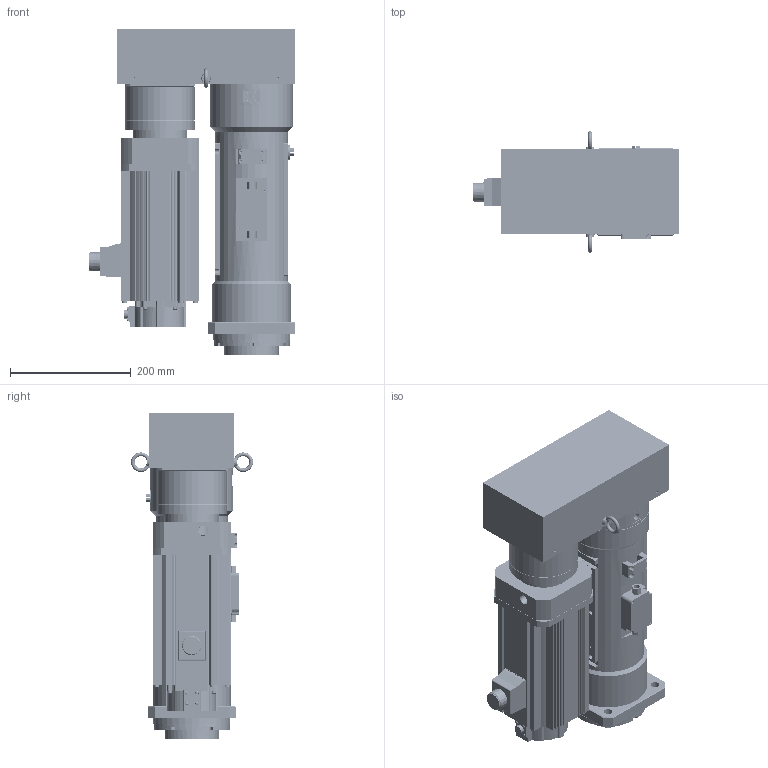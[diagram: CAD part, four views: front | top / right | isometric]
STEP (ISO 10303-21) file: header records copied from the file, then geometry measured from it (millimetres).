
FILE_DESCRIPTION( ('This file contains a STEP AP42 implementation' ,'as created by ZW3D STEP Interface translator.') ,'2;1' );
FILE_NAME( 'OACIS-DC-P060-P070-140-A6V200_V20.51.stp' ,'26 428.145142', (''), ('ZWCAD Software Co.'), 'Version 1.0', 'ZW3D to STEP translator', '' );
FILE_SCHEMA(('AUTOMOTIVE_DESIGN { 1 0 10303 214 1 1 1 1 }'));
Length unit declared in the file: millimetre
Products named in the file (1): 0
Bounding box: 342.5 x 202.25 x 541 mm (x, y, z)
Volume: 11563747.2 mm3; surface area: 1825709.4 mm2
Topology: 55 solids, 55 shells, 3334 faces, 8561 edges, 5481 vertices
Faces by surface type: cylinder 1630, plane 1232, cone 341, torus 101, bspline 26, sphere 4
Full cylindrical faces by diameter (mm): 1.567 x4, 2 x1, 2.459 x1, 3.3 x58, 4.2 x4, 4.3 x15, 4.5 x14, 4.917 x20, 5 x1, 5.3 x4, 5.5 x4, 6 x8, 6.5 x4, 6.647 x6, 6.8 x41, 7 x4, 8 x17, 8.4 x8, 8.5 x4, 9 x26, 9.5 x4, 9.78 x8, 10 x3, 10.1 x4, 10.106 x1, 10.2 x16, 10.5 x4, 12 x1, 14 x4, 14.8 x1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
Entity records: 119081 total; most frequent: CARTESIAN_POINT 28237, DIRECTION 19048, ORIENTED_EDGE 16934, EDGE_CURVE 8467, AXIS2_PLACEMENT_3D 7585, VERTEX_POINT 5478, CIRCLE 4257, EDGE_LOOP 3933
